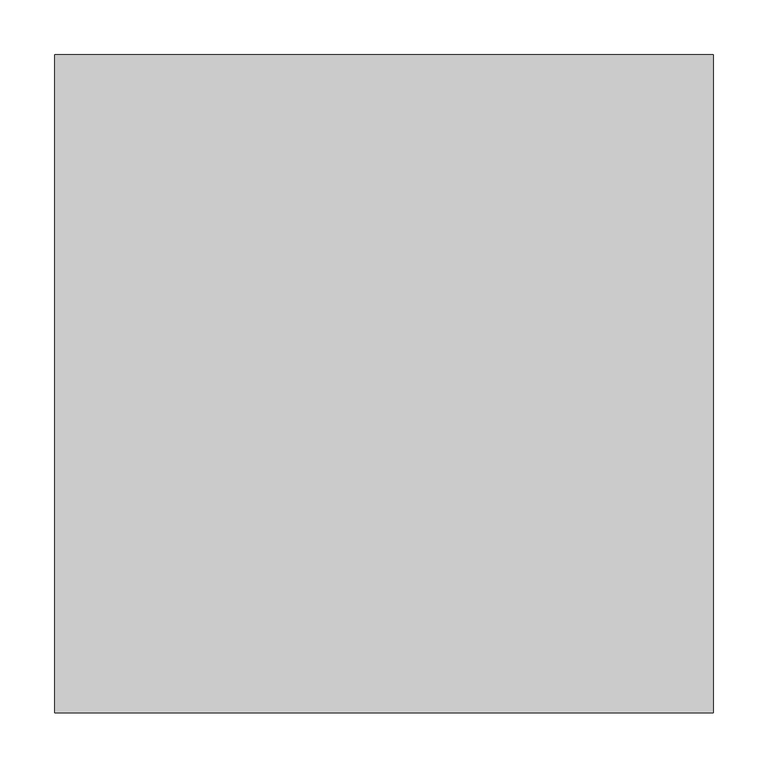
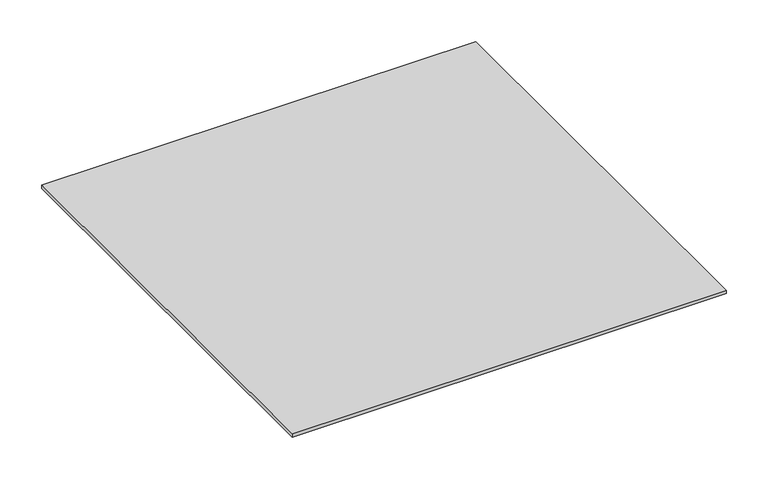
"""IFC4 building model written with IfcOpenShell, lengths in millimetres: proxy geometry, Loggia_Placeholder : Loggia_Placeholder."""

from ifc_helpers import new_model, si_unit, origin, origin_with_axes, place, context, project, spatial, polyline, outline, extrude, source, transform, mapped, element, save


def generic_models_5de6efd2(model_context):
    return source(origin(), model_context, "Body", "SweptSolid", [
        extrude(outline(polyline([(300.0, 300.0), (300.0, -300.0), (-300.0, -300.0), (-300.0, 300.0), (300.0, 300.0)])), origin_with_axes(), (0.0, 0.0, 1.0), 4.8),
    ])


if __name__ == "__main__":
    model = new_model("IFC4")
    model_context = context("Model", 3, world=origin())
    ifc_project = project(units=[si_unit("LENGTHUNIT", "METRE", prefix="MILLI")], contexts=[model_context])
    site = spatial("IfcSite", under=ifc_project)
    building = spatial("IfcBuilding", under=site)
    placement = place(None, origin())
    generic_models_shape = generic_models_5de6efd2(model_context)
    element("IfcBuildingElementProxy", 1, Name="Loggia_Placeholder : Loggia_Placeholder", ObjectType="Loggia_Placeholder : Loggia_Placeholder", at=placement, inside=building, context=model_context, shape_type="MappedRepresentation", body=[
        mapped(generic_models_shape, transform((0.0, 0.0, 0.0), x_axis=(1.0, 0.0, 0.0), y_axis=(0.0, 1.0, 0.0), z_axis=(0.0, 0.0, 1.0))),
    ])
    save(model, "model.ifc")
